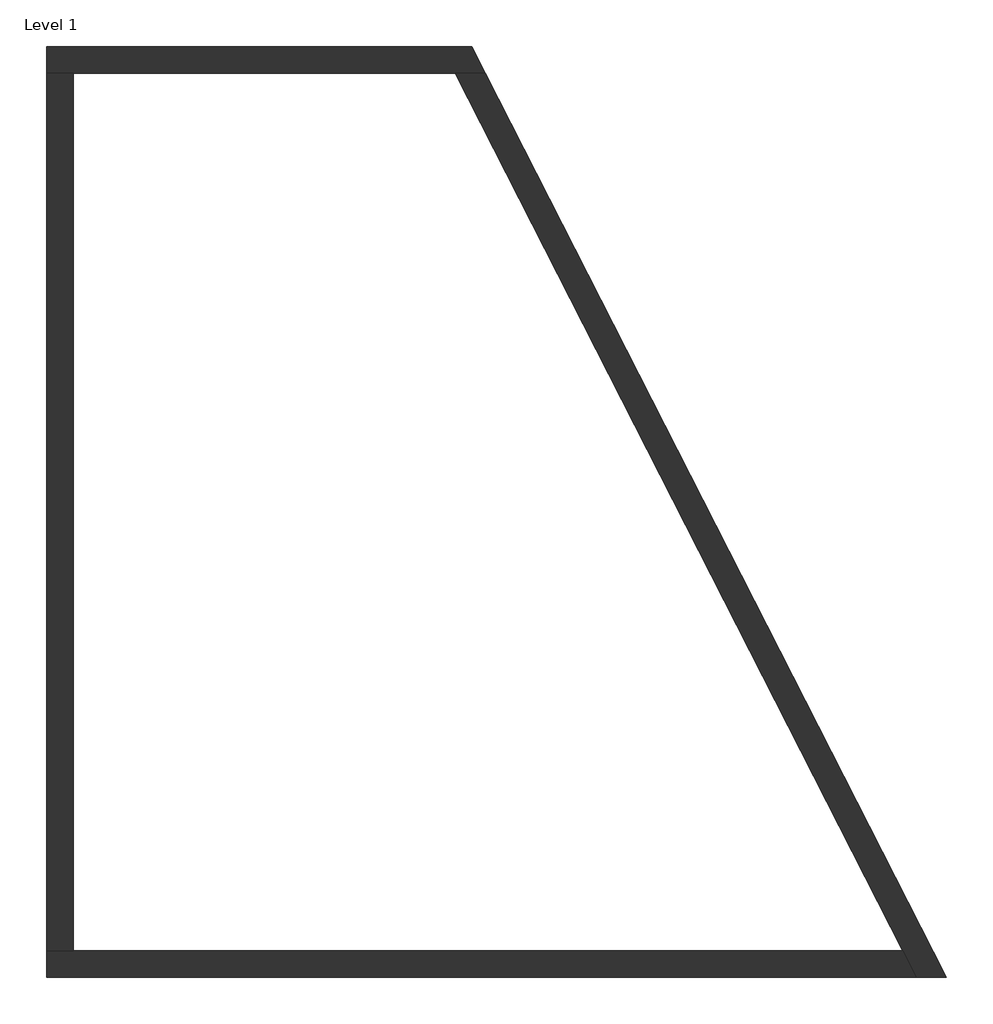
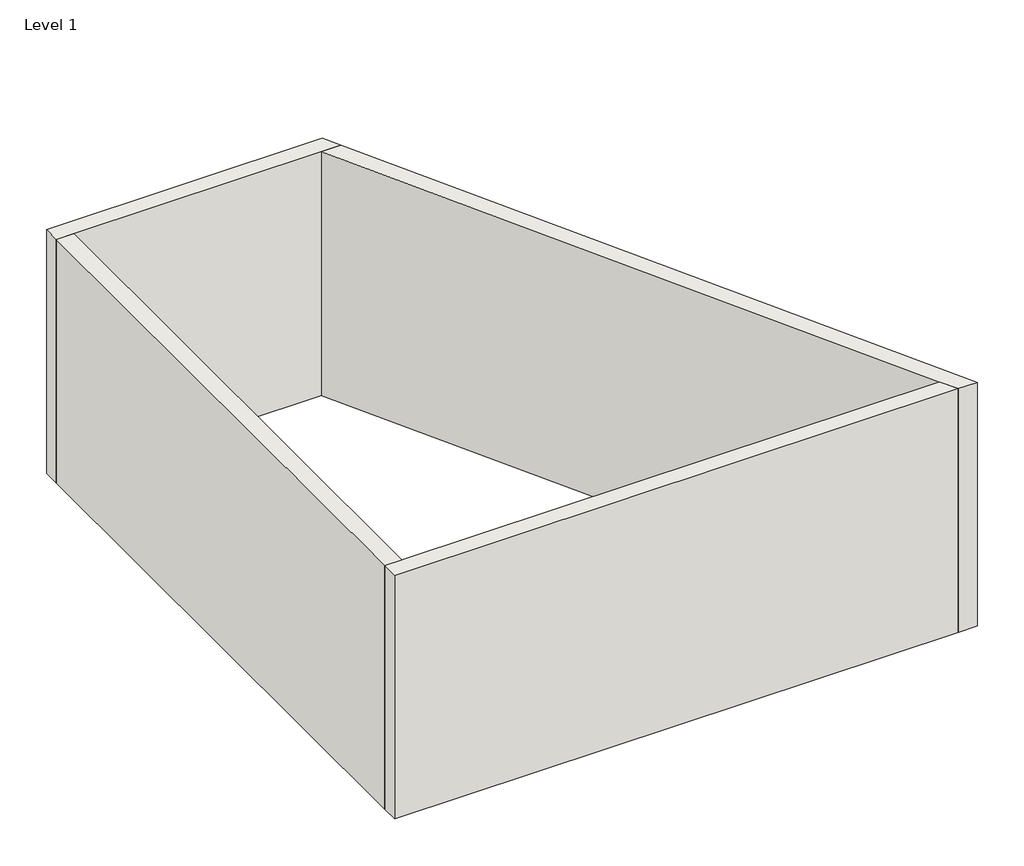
# One storey: 4 walls.
"""IFC4 building model written with IfcOpenShell, lengths in millimetres."""

import ifcopenshell
import ifcopenshell.guid

model = None  # the IFC model being written
_history = None  # IfcOwnerHistory: only IFC2X3 demands one
_inside = {}  # id of a spatial element -> (the spatial element, [elements in it])
_under = {}  # id of a project, library or spatial element -> (it, [spatial elements below it])
_declared = {}  # id of a project -> (the project, [libraries it declares])
_typed = {}  # id of a type object -> (the type object, [elements of that type])
_made_of = {}  # id of a material, layer set ... -> (it, [elements and type objects made of it])


def new_model(schema):
    """Start an empty IFC model of exactly this schema.

    Asked for "IFC4X3", IfcOpenShell would pick the latest addendum, in which some entities
    have other attributes; the version numbers below select the first issue.
    IFC2X3 requires an IfcOwnerHistory on every rooted entity: one is made here for all.
    """
    global model, _history
    if schema == "IFC4X3":
        model = ifcopenshell.file(schema_version=(4, 3, 0, 0))
    else:
        model = ifcopenshell.file(schema=schema)
    _inside.clear()
    _under.clear()
    _declared.clear()
    _typed.clear()
    _made_of.clear()
    _history = None
    if model.schema == "IFC2X3":
        org = make("IfcOrganization", Name="unknown")
        user = make(
            "IfcPersonAndOrganization",
            ThePerson=make("IfcPerson", FamilyName="unknown"),
            TheOrganization=org,
        )
        app = make(
            "IfcApplication",
            ApplicationDeveloper=org,
            Version="unknown",
            ApplicationFullName="unknown",
            ApplicationIdentifier="unknown",
        )
        _history = make(
            "IfcOwnerHistory",
            OwningUser=user,
            OwningApplication=app,
            ChangeAction="ADDED",
            CreationDate=0,
        )
    return model


def make(cls, **values):
    """One entity of the class cls with the attributes given. An attribute that is None is left unset."""
    return model.create_entity(
        cls, **{name: value for name, value in values.items() if value is not None}
    )


def rooted(cls, **values):
    """An entity with a GlobalId (a new one), such as an element, a storey or a relation."""
    return make(cls, GlobalId=ifcopenshell.guid.new(), OwnerHistory=_history, **values)


def si_unit(unit_type, name, prefix=None):
    """IfcSIUnit, for example si_unit("LENGTHUNIT", "METRE", prefix="MILLI")."""
    return make("IfcSIUnit", UnitType=unit_type, Prefix=prefix, Name=name)


def assignment(units):
    """IfcUnitAssignment: the units of a project."""
    return None if units is None else make("IfcUnitAssignment", Units=units)


def point(xyz):
    """IfcCartesianPoint."""
    return None if xyz is None else make("IfcCartesianPoint", Coordinates=xyz)


def direction(xyz):
    """IfcDirection."""
    return None if xyz is None else make("IfcDirection", DirectionRatios=xyz)


def frame(location, z_axis=None, x_axis=None):
    """IfcAxis2Placement3D, a coordinate frame: its origin and axes. An axis left out is left unset."""
    return make(
        "IfcAxis2Placement3D",
        Location=point(location),
        Axis=direction(z_axis),
        RefDirection=direction(x_axis),
    )


def origin():
    """The frame at (0, 0, 0) with its axes left unset."""
    return frame((0.0, 0.0, 0.0))


def origin_with_axes():
    """The frame at (0, 0, 0) with the z axis (0, 0, 1) and the x axis (1, 0, 0) written out."""
    return frame((0.0, 0.0, 0.0), z_axis=(0.0, 0.0, 1.0), x_axis=(1.0, 0.0, 0.0))


def place(relative_to, where):
    """IfcLocalPlacement: puts the frame where relative to a parent placement (None: the world)."""
    return make(
        "IfcLocalPlacement", PlacementRelTo=relative_to, RelativePlacement=where
    )


def context(
    kind, dimensions, precision=None, world=None, true_north=None, identifier=None
):
    """IfcGeometricRepresentationContext, for example the 3D "Model" context."""
    return make(
        "IfcGeometricRepresentationContext",
        ContextIdentifier=identifier,
        ContextType=kind,
        CoordinateSpaceDimension=dimensions,
        Precision=precision,
        WorldCoordinateSystem=world,
        TrueNorth=true_north,
    )


def project(units=None, contexts=None):
    """IfcProject with its units and contexts."""
    return rooted(
        "IfcProject",
        Name="project",
        RepresentationContexts=contexts,
        UnitsInContext=assignment(units),
    )


def spatial(cls, under=None, at=None, **own):
    """A site, building, storey or space (cls), placed at a placement, below another one or the project."""
    s = rooted(cls, ObjectPlacement=at, **own)
    if under is not None:
        _under.setdefault(under.id(), (under, []))[1].append(s)
    return s


def polyline(points):
    """IfcPolyline through the points."""
    return make("IfcPolyline", Points=[point(p) for p in points])


def outline(outer, holes=None, kind="AREA"):
    """IfcArbitraryClosedProfileDef: a profile drawn as a closed curve; with holes, ...WithVoids."""
    if holes is None:
        return make("IfcArbitraryClosedProfileDef", ProfileType=kind, OuterCurve=outer)
    return make(
        "IfcArbitraryProfileDefWithVoids",
        ProfileType=kind,
        OuterCurve=outer,
        InnerCurves=holes,
    )


def extrude(swept, where, along, depth):
    """IfcExtrudedAreaSolid: the profile swept, set in the frame where, extruded along a direction by depth."""
    return make(
        "IfcExtrudedAreaSolid",
        SweptArea=swept,
        Position=where,
        ExtrudedDirection=direction(along),
        Depth=depth,
    )


def faces_of(points, faces, orient=None, outer=None):
    """IfcFace entities. A face is a list of loops; a loop is a list of indices into points, from 0.

    orient and outer hold one flag for each loop. By default every Orientation is true, the
    first loop of a face is its IfcFaceOuterBound and the others are IfcFaceBound.
    """
    made = []
    for i, loops in enumerate(faces):
        bounds = []
        for j, loop in enumerate(loops):
            is_outer = j == 0 if outer is None else outer[i][j]
            bounds.append(
                make(
                    "IfcFaceOuterBound" if is_outer else "IfcFaceBound",
                    Bound=make("IfcPolyLoop", Polygon=[points[k] for k in loop]),
                    Orientation=True if orient is None else orient[i][j],
                )
            )
        made.append(make("IfcFace", Bounds=bounds))
    return made


def faceted_brep(points, faces, orient=None, outer=None, voids=None):
    """IfcFacetedBrep: a solid bounded by flat faces; with voids (closed shells), ...WithVoids."""
    shared = [point(p) for p in points]
    hull = make("IfcClosedShell", CfsFaces=faces_of(shared, faces, orient, outer))
    if voids is None:
        return make("IfcFacetedBrep", Outer=hull)
    return make(
        "IfcFacetedBrepWithVoids",
        Outer=hull,
        Voids=[
            make(cls, CfsFaces=faces_of(shared, fs, o, b)) for cls, fs, o, b in voids
        ],
    )


def shape(context_of_items, identifier, shape_type, items):
    """IfcShapeRepresentation: the items that make up one representation, for example the "Body"."""
    return make(
        "IfcShapeRepresentation",
        ContextOfItems=context_of_items,
        RepresentationIdentifier=identifier,
        RepresentationType=shape_type,
        Items=items,
    )


def made_of(thing, what):
    """Note that an element or type object is made of a material, layer set ...; save() writes the relation."""
    if what is not None:
        _made_of.setdefault(what.id(), (what, []))[1].append(thing)
    return thing


def element(
    cls,
    number,
    at=None,
    inside=None,
    cuts=None,
    type_object=None,
    material=None,
    context=None,
    identifier="Body",
    shape_type=None,
    held_by="IfcProductDefinitionShape",
    body=None,
    shapes=None,
    **own,
):
    """One element of the class cls, such as IfcWall. Its Tag is "e" and its number.

    at: its placement. inside: the storey or other place that contains it. cuts: it is an
    opening in that element (IfcRelVoidsElement). A single representation is given by context,
    identifier, shape_type and body (its items); several are given by shapes. held_by: the class
    of the entity that holds the representations. save() writes the other relations.
    """
    e = rooted(cls, Tag="e%d" % number, ObjectPlacement=at, **own)
    if body is not None:
        shapes = [shape(context, identifier, shape_type, body)]
    if shapes is not None:
        e.Representation = make(held_by, Representations=shapes)
    if inside is not None:
        _inside.setdefault(inside.id(), (inside, []))[1].append(e)
    if cuts is not None:
        rooted(
            "IfcRelVoidsElement", RelatingBuildingElement=cuts, RelatedOpeningElement=e
        )
    if type_object is not None:
        _typed.setdefault(type_object.id(), (type_object, []))[1].append(e)
    return made_of(e, material)


def aggregate(whole, parts):
    """IfcRelAggregates: a whole, such as a stair, and the parts it consists of."""
    return rooted("IfcRelAggregates", RelatingObject=whole, RelatedObjects=parts)


def save(model, path):
    """Write the relations noted so far, then the file.

    IfcRelAggregates (storeys below a building ...), IfcRelContainedInSpatialStructure (elements
    in a storey), IfcRelDefinesByType, IfcRelAssociatesMaterial and IfcRelDeclares: one each for
    every whole, place, type object, material and project.
    """
    for whole, parts in _under.values():
        aggregate(whole, parts)
    for where, things in _inside.values():
        rooted(
            "IfcRelContainedInSpatialStructure",
            RelatedElements=things,
            RelatingStructure=where,
        )
    for kind, things in _typed.values():
        rooted("IfcRelDefinesByType", RelatedObjects=things, RelatingType=kind)
    for what, things in _made_of.values():
        rooted("IfcRelAssociatesMaterial", RelatedObjects=things, RelatingMaterial=what)
    for by, libraries in _declared.values():
        rooted("IfcRelDeclares", RelatingContext=by, RelatedDefinitions=libraries)
    model.write(path)


model = new_model("IFC4")

# Units and contexts
model_context = context("Model", 3, world=origin())
ifc_project = project(units=[si_unit("LENGTHUNIT", "METRE", prefix="MILLI")], contexts=[model_context])

# Site, building, storey
site = spatial("IfcSite", under=ifc_project)
building = spatial("IfcBuilding", under=site)
storey = spatial("IfcBuildingStorey", under=building, Name="Level 1", Elevation=0.0)

# Walls
placement = place(None, origin())
element("IfcWall", 1, ObjectType="Generic - 8\"", at=placement, inside=storey, context=model_context, shape_type="Brep", body=[
    faceted_brep([(-15044.8265358, 14949.9907213, 0.0), (-14841.6265358, 14949.9907213, 0.0), (-11913.2568444, 14949.9907213, 0.0), (-11685.2001529, 14949.9907213, 0.0), (-11685.2001529, 14949.9907213, 3048.0), (-11913.2568444, 14949.9907213, 3048.0), (-14841.6265358, 14949.9907213, 3048.0), (-15044.8265358, 14949.9907213, 3048.0), (-15044.8265358, 15153.1907213, 0.0), (-15044.8265358, 15153.1907213, 3048.0), (-11788.7357242, 15153.1907213, 3048.0), (-11788.7357242, 15153.1907213, 0.0)], [[[0, 1, 2, 3, 4, 5, 6, 7]], [[8, 9, 10, 11]], [[3, 2, 1, 0, 8, 11]], [[7, 6, 5, 4, 10, 9]], [[4, 3, 11, 10]], [[0, 7, 9, 8]]]),
])
element("IfcWall", 2, ObjectType="Generic - 8\"", at=placement, inside=storey, context=model_context, shape_type="Brep", body=[
    faceted_brep([(-11913.2568444, 14949.9907213, 0.0), (-8488.1966555, 8227.9316127, 0.0), (-8384.6610842, 8024.7316127, 0.0), (-8384.6610842, 8024.7316127, 3048.0), (-8488.1966555, 8227.9316127, 3048.0), (-11913.2568444, 14949.9907213, 3048.0), (-11685.2001529, 14949.9907213, 0.0), (-11685.2001529, 14949.9907213, 3048.0), (-8156.6043927, 8024.7316127, 3048.0), (-8156.6043927, 8024.7316127, 0.0)], [[[0, 1, 2, 3, 4, 5]], [[6, 7, 8, 9]], [[2, 1, 0, 6, 9]], [[5, 4, 3, 8, 7]], [[0, 5, 7, 6]], [[3, 2, 9, 8]]]),
])
element("IfcWall", 3, ObjectType="Generic - 8\"", at=placement, inside=storey, context=model_context, shape_type="Brep", body=[
    faceted_brep([(-8488.1966555, 8227.9316127, 0.0), (-14841.6265358, 8227.9316127, 0.0), (-15044.8265358, 8227.9316127, 0.0), (-15044.8265358, 8227.9316127, 3048.0), (-14841.6265358, 8227.9316127, 3048.0), (-8488.1966555, 8227.9316127, 3048.0), (-8384.6610842, 8024.7316127, 0.0), (-8384.6610842, 8024.7316127, 3048.0), (-15044.8265358, 8024.7316127, 3048.0), (-15044.8265358, 8024.7316127, 0.0)], [[[0, 1, 2, 3, 4, 5]], [[6, 7, 8, 9]], [[2, 1, 0, 6, 9]], [[5, 4, 3, 8, 7]], [[0, 5, 7, 6]], [[3, 2, 9, 8]]]),
])
element("IfcWall", 4, ObjectType="Generic - 8\"", at=placement, inside=storey, context=model_context, shape_type="SweptSolid", body=[
    extrude(outline(polyline([(-14841.6265358, 14949.9907213), (-14841.6265358, 8227.9316127), (-15044.8265358, 8227.9316127), (-15044.8265358, 14949.9907213), (-14841.6265358, 14949.9907213)])), origin_with_axes(), (0.0, 0.0, 1.0), 3048.0),
])

save(model, "model.ifc")
